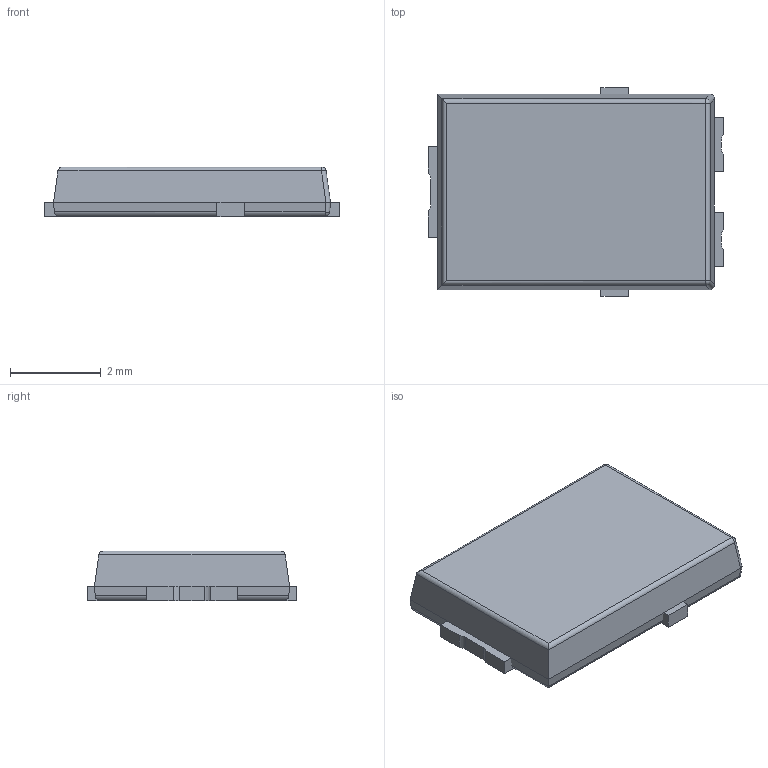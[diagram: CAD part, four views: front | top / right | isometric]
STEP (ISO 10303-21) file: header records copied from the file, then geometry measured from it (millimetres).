
FILE_DESCRIPTION(/* description */ ('Unknown'),/* implementation_level */ '2;1');
FILE_NAME(/* name */ 'TO-277C',/* time_stamp */ '2023-10-04T15:15:44+08:00',/* author */ ('Unknown'),/* organization */ ('Unknown'),/* preprocessor_version */ 'ST-DEVELOPER v18.104',/* originating_system */ 'Solid Edge',/* authorisation */ 'Unknown');
FILE_SCHEMA (('AUTOMOTIVE_DESIGN {1 0 10303 214 3 1 1}'));
Length unit declared in the file: millimetre
Products named in the file (1): TO-277C
Bounding box: 6.5 x 4.6 x 1.1 mm (x, y, z)
Volume: 32.8 mm3; surface area: 113.4 mm2
Topology: 4 solids, 4 shells, 74 faces, 184 edges, 114 vertices
Faces by surface type: plane 46, cylinder 24, sphere 4
Entity records: 2188 total; most frequent: DIRECTION 372, CARTESIAN_POINT 369, ORIENTED_EDGE 360, EDGE_CURVE 180, LINE 138, VECTOR 138, AXIS2_PLACEMENT_3D 117, VERTEX_POINT 114
